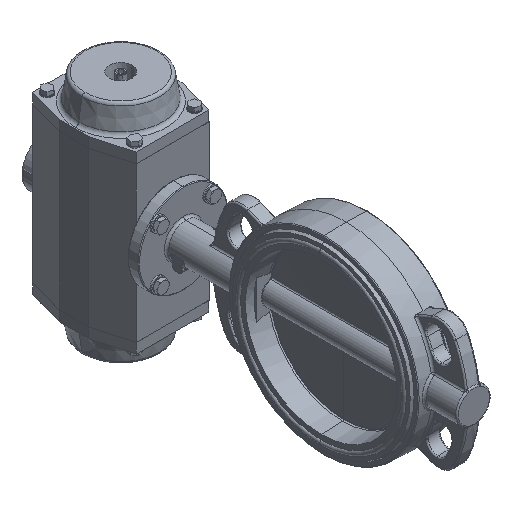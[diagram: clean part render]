
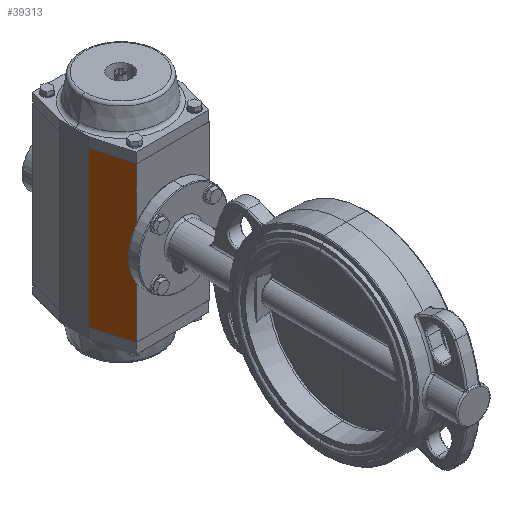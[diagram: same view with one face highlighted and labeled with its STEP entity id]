
A CAD part, isometric view. The second image highlights one B-rep face of the part: STEP entity #39313.
In plain terms, the highlighted planar face has unit normal (-0.964, -0.265, 0).
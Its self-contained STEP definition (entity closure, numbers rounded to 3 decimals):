
#1634 = LINE ( 'NONE', #16244, #39272 ) ;
#2445 = DIRECTION ( 'NONE',  ( -0.265, 0.964, 0. ) ) ;
#5811 = CARTESIAN_POINT ( 'NONE',  ( -50., -71., -106. ) ) ;
#5812 = FACE_OUTER_BOUND ( 'NONE', #18354, .T. ) ;
#6706 = CARTESIAN_POINT ( 'NONE',  ( -50., -71., -106. ) ) ;
#8717 = ORIENTED_EDGE ( 'NONE', *, *, #21174, .F. ) ;
#9328 = VERTEX_POINT ( 'NONE', #23699 ) ;
#11890 = CARTESIAN_POINT ( 'NONE',  ( -50., -71., 106. ) ) ;
#15907 = CARTESIAN_POINT ( 'NONE',  ( -64., -20., -106. ) ) ;
#15938 = VECTOR ( 'NONE', #45050, 1000. ) ;
#16244 = CARTESIAN_POINT ( 'NONE',  ( -50., -71., 106. ) ) ;
#16836 = DIRECTION ( 'NONE',  ( 0.964, 0.265, 0. ) ) ;
#18352 = CARTESIAN_POINT ( 'NONE',  ( -64., -20., -106. ) ) ;
#18354 = EDGE_LOOP ( 'NONE', ( #36932, #46774, #40562, #8717 ) ) ;
#19526 = VECTOR ( 'NONE', #37693, 1000. ) ;
#21174 = EDGE_CURVE ( 'NONE', #28114, #33851, #30473, .T. ) ;
#23676 = PLANE ( 'NONE',  #45667 ) ;
#23699 = CARTESIAN_POINT ( 'NONE',  ( -64., -20., 106. ) ) ;
#24261 = CARTESIAN_POINT ( 'NONE',  ( -50., -71., -106. ) ) ;
#25546 = EDGE_CURVE ( 'NONE', #28114, #44395, #36438, .T. ) ;
#28114 = VERTEX_POINT ( 'NONE', #6706 ) ;
#29212 = LINE ( 'NONE', #15907, #19526 ) ;
#30473 = LINE ( 'NONE', #24261, #41359 ) ;
#33851 = VERTEX_POINT ( 'NONE', #18352 ) ;
#34176 = EDGE_CURVE ( 'NONE', #44395, #9328, #1634, .T. ) ;
#36438 = LINE ( 'NONE', #37691, #15938 ) ;
#36932 = ORIENTED_EDGE ( 'NONE', *, *, #25546, .T. ) ;
#37691 = CARTESIAN_POINT ( 'NONE',  ( -50., -71., -106. ) ) ;
#37693 = DIRECTION ( 'NONE',  ( 0., 0., 1. ) ) ;
#39272 = VECTOR ( 'NONE', #41741, 1000. ) ;
#39313 = ADVANCED_FACE ( 'NONE', ( #5812 ), #23676, .F. ) ;
#40562 = ORIENTED_EDGE ( 'NONE', *, *, #43438, .F. ) ;
#41359 = VECTOR ( 'NONE', #2445, 1000. ) ;
#41741 = DIRECTION ( 'NONE',  ( -0.265, 0.964, 0. ) ) ;
#42327 = DIRECTION ( 'NONE',  ( -0.265, 0.964, 0. ) ) ;
#43438 = EDGE_CURVE ( 'NONE', #33851, #9328, #29212, .T. ) ;
#44395 = VERTEX_POINT ( 'NONE', #11890 ) ;
#45050 = DIRECTION ( 'NONE',  ( 0., 0., 1. ) ) ;
#45667 = AXIS2_PLACEMENT_3D ( 'NONE', #5811, #16836, #42327 ) ;
#46774 = ORIENTED_EDGE ( 'NONE', *, *, #34176, .T. ) ;
